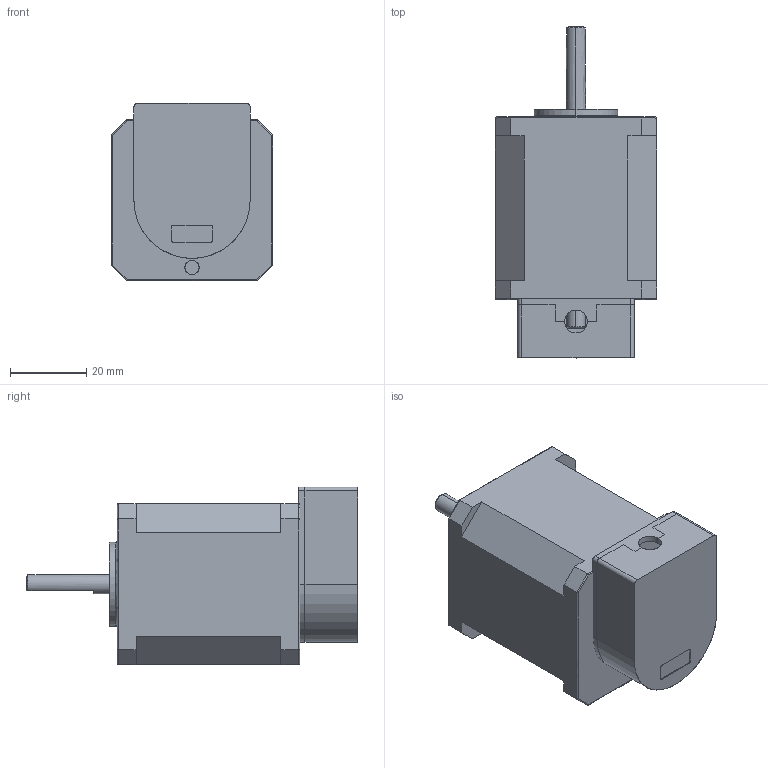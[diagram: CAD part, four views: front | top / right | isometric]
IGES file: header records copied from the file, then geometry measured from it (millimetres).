
Start section: SolidWorks IGES file using analytic representation for surfaces
Global section: file name: C:\Users\Christine\Documents\Arcus\Project #21\STM-17-3-E100\STM-17-3-E100 assy.IGS; native system: SolidWorks 2008; preprocessor: SolidWorks 2008; author: Christine; date: 130915.220509; units: millimetre
Bounding box: 42.3 x 87.13 x 46.64 mm (x, y, z)
Surface area: 20156.9 mm2 (no closed solid volume)
Topology: 0 solids, 0 shells, 174 faces, 2413 edges, 2397 vertices
Faces by surface type: revolution 101, bspline 73
